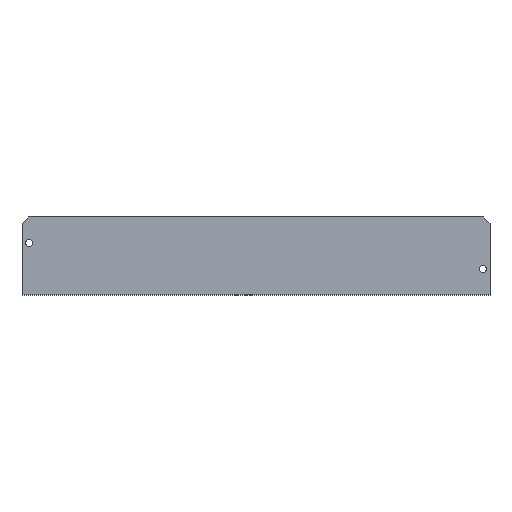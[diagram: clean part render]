
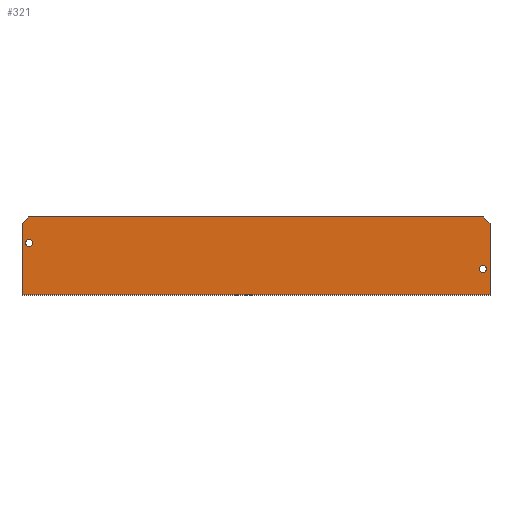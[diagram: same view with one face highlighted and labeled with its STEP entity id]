
A CAD part, top view. The second image highlights one B-rep face of the part: STEP entity #321.
In plain terms, the highlighted planar face has unit normal (0, 0, 1).
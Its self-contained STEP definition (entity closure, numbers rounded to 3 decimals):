
#5 = CARTESIAN_POINT ( 'NONE',  ( 0., 22., 0.8 ) ) ;
#6 = ORIENTED_EDGE ( 'NONE', *, *, #33, .T. ) ;
#27 = DIRECTION ( 'NONE',  ( 1., 0., 0. ) ) ;
#28 = EDGE_CURVE ( 'NONE', #157, #204, #104, .T. ) ;
#30 = LINE ( 'NONE', #345, #407 ) ;
#33 = EDGE_CURVE ( 'NONE', #160, #274, #119, .T. ) ;
#39 = FACE_BOUND ( 'NONE', #173, .T. ) ;
#45 = ORIENTED_EDGE ( 'NONE', *, *, #28, .F. ) ;
#46 = PLANE ( 'NONE',  #63 ) ;
#58 = CARTESIAN_POINT ( 'NONE',  ( 2.2, 16., 0.8 ) ) ;
#59 = CARTESIAN_POINT ( 'NONE',  ( 142., 24., 0.8 ) ) ;
#63 = AXIS2_PLACEMENT_3D ( 'NONE', #233, #135, #392 ) ;
#65 = ORIENTED_EDGE ( 'NONE', *, *, #199, .F. ) ;
#69 = VERTEX_POINT ( 'NONE', #113 ) ;
#72 = CARTESIAN_POINT ( 'NONE',  ( 144., 0., 0.8 ) ) ;
#75 = ORIENTED_EDGE ( 'NONE', *, *, #361, .F. ) ;
#76 = CARTESIAN_POINT ( 'NONE',  ( 144., 22., 0.8 ) ) ;
#81 = ORIENTED_EDGE ( 'NONE', *, *, #373, .F. ) ;
#88 = CARTESIAN_POINT ( 'NONE',  ( 0., 24., 0.8 ) ) ;
#90 = AXIS2_PLACEMENT_3D ( 'NONE', #195, #390, #266 ) ;
#91 = LINE ( 'NONE', #343, #171 ) ;
#92 = DIRECTION ( 'NONE',  ( 0., -1., 0. ) ) ;
#96 = CIRCLE ( 'NONE', #90, 1.1 ) ;
#97 = CARTESIAN_POINT ( 'NONE',  ( 2.2, 16., 0.8 ) ) ;
#98 = VERTEX_POINT ( 'NONE', #335 ) ;
#99 = DIRECTION ( 'NONE',  ( -0.707, 0.707, 0. ) ) ;
#100 = EDGE_CURVE ( 'NONE', #378, #327, #91, .T. ) ;
#104 = CIRCLE ( 'NONE', #184, 1.1 ) ;
#108 = LINE ( 'NONE', #5, #153 ) ;
#110 = VERTEX_POINT ( 'NONE', #270 ) ;
#113 = CARTESIAN_POINT ( 'NONE',  ( 0., 22., 0.8 ) ) ;
#119 = LINE ( 'NONE', #88, #411 ) ;
#129 = CARTESIAN_POINT ( 'NONE',  ( 142., 24., 0.8 ) ) ;
#135 = DIRECTION ( 'NONE',  ( 0., 0., -1. ) ) ;
#149 = DIRECTION ( 'NONE',  ( 1., 0., 0. ) ) ;
#153 = VECTOR ( 'NONE', #356, 1000. ) ;
#157 = VERTEX_POINT ( 'NONE', #251 ) ;
#160 = VERTEX_POINT ( 'NONE', #59 ) ;
#170 = EDGE_LOOP ( 'NONE', ( #45, #75 ) ) ;
#171 = VECTOR ( 'NONE', #238, 1000. ) ;
#173 = EDGE_LOOP ( 'NONE', ( #81, #65 ) ) ;
#176 = DIRECTION ( 'NONE',  ( -1., 0., 0. ) ) ;
#184 = AXIS2_PLACEMENT_3D ( 'NONE', #397, #402, #272 ) ;
#187 = CARTESIAN_POINT ( 'NONE',  ( 2., 24., 0.8 ) ) ;
#191 = EDGE_CURVE ( 'NONE', #69, #98, #30, .T. ) ;
#192 = ORIENTED_EDGE ( 'NONE', *, *, #191, .T. ) ;
#195 = CARTESIAN_POINT ( 'NONE',  ( 141.8, 8., 0.8 ) ) ;
#196 = ORIENTED_EDGE ( 'NONE', *, *, #305, .T. ) ;
#199 = EDGE_CURVE ( 'NONE', #200, #110, #303, .T. ) ;
#200 = VERTEX_POINT ( 'NONE', #380 ) ;
#204 = VERTEX_POINT ( 'NONE', #384 ) ;
#223 = EDGE_LOOP ( 'NONE', ( #299, #196, #6, #279, #192, #236 ) ) ;
#233 = CARTESIAN_POINT ( 'NONE',  ( 0., 0., 0.8 ) ) ;
#236 = ORIENTED_EDGE ( 'NONE', *, *, #247, .T. ) ;
#237 = CIRCLE ( 'NONE', #316, 1.1 ) ;
#238 = DIRECTION ( 'NONE',  ( 0., 1., 0. ) ) ;
#244 = AXIS2_PLACEMENT_3D ( 'NONE', #58, #382, #27 ) ;
#247 = EDGE_CURVE ( 'NONE', #98, #378, #377, .T. ) ;
#251 = CARTESIAN_POINT ( 'NONE',  ( 142.9, 8., 0.8 ) ) ;
#258 = LINE ( 'NONE', #129, #398 ) ;
#266 = DIRECTION ( 'NONE',  ( 1., 0., 0. ) ) ;
#270 = CARTESIAN_POINT ( 'NONE',  ( 3.3, 16., 0.8 ) ) ;
#272 = DIRECTION ( 'NONE',  ( 1., 0., 0. ) ) ;
#274 = VERTEX_POINT ( 'NONE', #187 ) ;
#279 = ORIENTED_EDGE ( 'NONE', *, *, #396, .T. ) ;
#292 = FACE_BOUND ( 'NONE', #170, .T. ) ;
#297 = VECTOR ( 'NONE', #149, 1000. ) ;
#299 = ORIENTED_EDGE ( 'NONE', *, *, #100, .T. ) ;
#303 = CIRCLE ( 'NONE', #244, 1.1 ) ;
#305 = EDGE_CURVE ( 'NONE', #327, #160, #258, .T. ) ;
#316 = AXIS2_PLACEMENT_3D ( 'NONE', #97, #352, #354 ) ;
#321 = ADVANCED_FACE ( 'NONE', ( #39, #292, #388 ), #46, .F. ) ;
#327 = VERTEX_POINT ( 'NONE', #76 ) ;
#335 = CARTESIAN_POINT ( 'NONE',  ( 0., 0., 0.8 ) ) ;
#343 = CARTESIAN_POINT ( 'NONE',  ( 144., 0., 0.8 ) ) ;
#344 = CARTESIAN_POINT ( 'NONE',  ( 0., 0., 0.8 ) ) ;
#345 = CARTESIAN_POINT ( 'NONE',  ( 0., 0., 0.8 ) ) ;
#352 = DIRECTION ( 'NONE',  ( 0., 0., 1. ) ) ;
#354 = DIRECTION ( 'NONE',  ( 1., 0., 0. ) ) ;
#356 = DIRECTION ( 'NONE',  ( -0.707, -0.707, 0. ) ) ;
#361 = EDGE_CURVE ( 'NONE', #204, #157, #96, .T. ) ;
#373 = EDGE_CURVE ( 'NONE', #110, #200, #237, .T. ) ;
#377 = LINE ( 'NONE', #344, #297 ) ;
#378 = VERTEX_POINT ( 'NONE', #72 ) ;
#380 = CARTESIAN_POINT ( 'NONE',  ( 1.1, 16., 0.8 ) ) ;
#382 = DIRECTION ( 'NONE',  ( 0., 0., 1. ) ) ;
#384 = CARTESIAN_POINT ( 'NONE',  ( 140.7, 8., 0.8 ) ) ;
#388 = FACE_OUTER_BOUND ( 'NONE', #223, .T. ) ;
#390 = DIRECTION ( 'NONE',  ( 0., 0., 1. ) ) ;
#392 = DIRECTION ( 'NONE',  ( -1., 0., 0. ) ) ;
#396 = EDGE_CURVE ( 'NONE', #274, #69, #108, .T. ) ;
#397 = CARTESIAN_POINT ( 'NONE',  ( 141.8, 8., 0.8 ) ) ;
#398 = VECTOR ( 'NONE', #99, 1000. ) ;
#402 = DIRECTION ( 'NONE',  ( 0., 0., 1. ) ) ;
#407 = VECTOR ( 'NONE', #92, 1000. ) ;
#411 = VECTOR ( 'NONE', #176, 1000. ) ;
